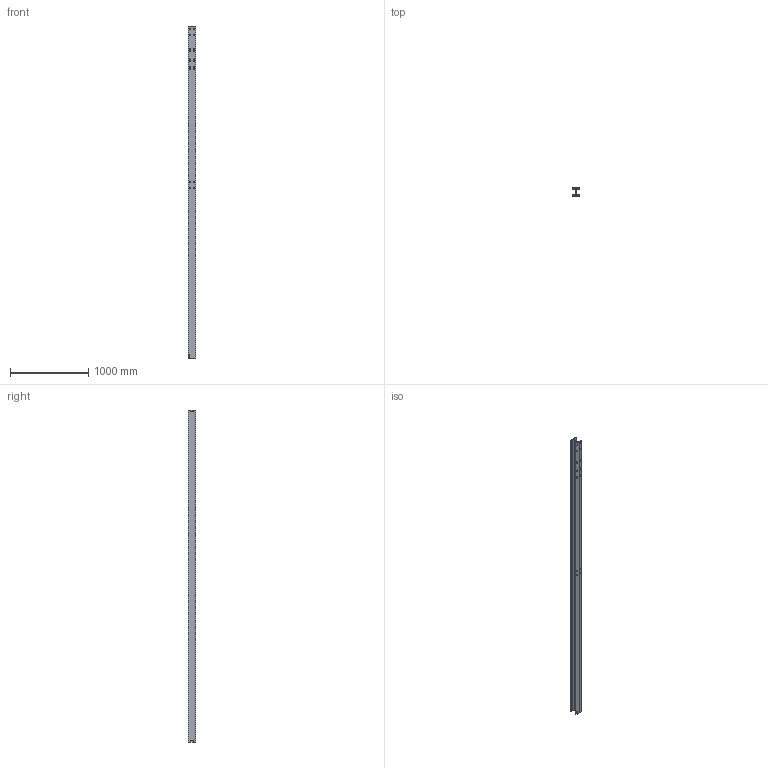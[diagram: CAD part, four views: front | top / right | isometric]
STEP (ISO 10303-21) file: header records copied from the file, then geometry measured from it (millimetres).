
FILE_DESCRIPTION (( 'STEP AP214' ), '1' );
FILE_NAME ('CCJ029-REP.025 - POTEAU TYPE 6.STEP', '2025-02-13T08:49:48', ( '' ), ( '' ), 'SwSTEP 2.0', 'SolidWorks 2021', '' );
FILE_SCHEMA (( 'AUTOMOTIVE_DESIGN' ));
Length unit declared in the file: millimetre
Products named in the file (1): CCJ029-REP.025 - POTEAU TYPE 6
Bounding box: 100 x 100 x 4240 mm (x, y, z)
Volume: 10996928.7 mm3; surface area: 2412144.3 mm2
Topology: 1 solids, 1 shells, 115 faces, 327 edges, 218 vertices
Faces by surface type: cylinder 50, plane 42, bspline 23
Entity records: 5425 total; most frequent: CARTESIAN_POINT 2372, ORIENTED_EDGE 654, DIRECTION 567, EDGE_CURVE 327, VERTEX_POINT 218, AXIS2_PLACEMENT_3D 193, LINE 181, VECTOR 181
